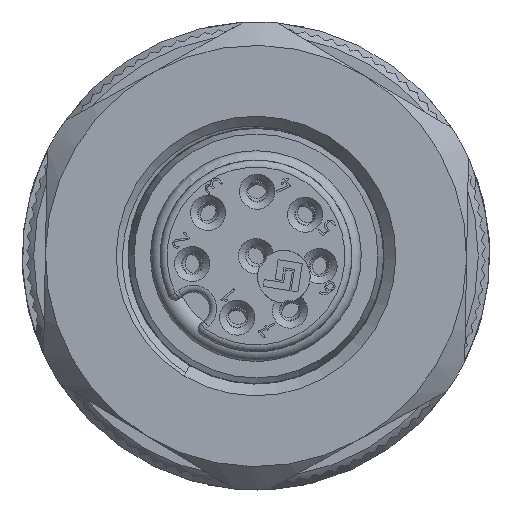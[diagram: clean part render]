
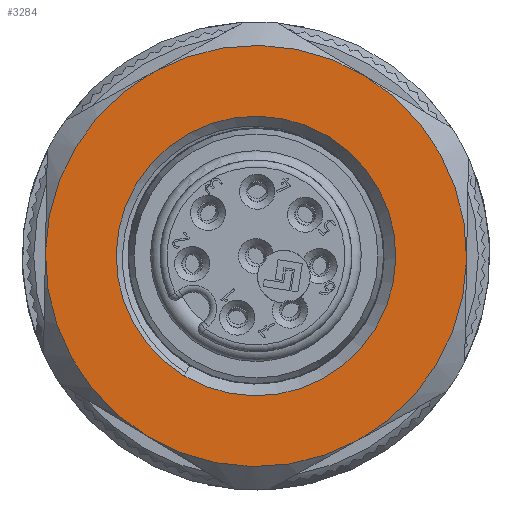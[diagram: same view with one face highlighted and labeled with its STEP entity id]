
A CAD part, left-side view. The second image highlights one B-rep face of the part: STEP entity #3284.
In plain terms, the highlighted planar face has unit normal (-1, 0, 0).
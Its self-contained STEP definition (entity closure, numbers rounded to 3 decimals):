
#2909=PLANE('',#11475);
#3284=ADVANCED_FACE('',(#4072,#4073),#2909,.T.);
#4072=FACE_BOUND('',#4258,.T.);
#4073=FACE_BOUND('',#4259,.T.);
#4258=EDGE_LOOP('',(#5047));
#4259=EDGE_LOOP('',(#5048,#5049,#5050,#5051,#5052,#5053));
#5047=ORIENTED_EDGE('',*,*,#9437,.T.);
#5048=ORIENTED_EDGE('',*,*,#9435,.T.);
#5049=ORIENTED_EDGE('',*,*,#9425,.T.);
#5050=ORIENTED_EDGE('',*,*,#9415,.T.);
#5051=ORIENTED_EDGE('',*,*,#9405,.T.);
#5052=ORIENTED_EDGE('',*,*,#9392,.T.);
#5053=ORIENTED_EDGE('',*,*,#9394,.T.);
#8281=VERTEX_POINT('',#15168);
#8282=VERTEX_POINT('',#15170);
#8283=VERTEX_POINT('',#15177);
#8289=VERTEX_POINT('',#15212);
#8295=VERTEX_POINT('',#15243);
#8301=VERTEX_POINT('',#15274);
#8306=VERTEX_POINT('',#15310);
#9392=EDGE_CURVE('',#8282,#8281,#11031,.T.);
#9394=EDGE_CURVE('',#8281,#8283,#11032,.T.);
#9405=EDGE_CURVE('',#8289,#8282,#11036,.T.);
#9415=EDGE_CURVE('',#8295,#8289,#11040,.T.);
#9425=EDGE_CURVE('',#8301,#8295,#11044,.T.);
#9435=EDGE_CURVE('',#8283,#8301,#11048,.T.);
#9437=EDGE_CURVE('',#8306,#8306,#11049,.T.);
#11031=CIRCLE('',#11442,9.);
#11032=CIRCLE('',#11444,9.);
#11036=CIRCLE('',#11451,9.);
#11040=CIRCLE('',#11458,9.);
#11044=CIRCLE('',#11465,9.);
#11048=CIRCLE('',#11472,9.);
#11049=CIRCLE('',#11474,5.975);
#11442=AXIS2_PLACEMENT_3D('',#15169,#12426,#12427);
#11444=AXIS2_PLACEMENT_3D('',#15176,#12430,#12431);
#11451=AXIS2_PLACEMENT_3D('',#15211,#12446,#12447);
#11458=AXIS2_PLACEMENT_3D('',#15242,#12462,#12463);
#11465=AXIS2_PLACEMENT_3D('',#15273,#12478,#12479);
#11472=AXIS2_PLACEMENT_3D('',#15303,#12494,#12495);
#11474=AXIS2_PLACEMENT_3D('',#15309,#12498,#12499);
#11475=AXIS2_PLACEMENT_3D('',#15311,#12500,#12501);
#12426=DIRECTION('',(-1.,0.,0.));
#12427=DIRECTION('',(0.,-0.516,0.857));
#12430=DIRECTION('',(-1.,0.,0.));
#12431=DIRECTION('',(0.,-0.516,0.857));
#12446=DIRECTION('',(-1.,0.,0.));
#12447=DIRECTION('',(0.,-0.516,0.857));
#12462=DIRECTION('',(-1.,0.,0.));
#12463=DIRECTION('',(0.,-0.516,0.857));
#12478=DIRECTION('',(-1.,0.,0.));
#12479=DIRECTION('',(0.,-0.516,0.857));
#12494=DIRECTION('',(-1.,0.,0.));
#12495=DIRECTION('',(0.,-0.516,0.857));
#12498=DIRECTION('',(1.,0.,0.));
#12499=DIRECTION('',(0.,-0.516,0.857));
#12500=DIRECTION('',(-1.,0.,0.));
#12501=DIRECTION('',(0.,-0.516,0.857));
#15168=CARTESIAN_POINT('',(-37.249,8.998,8.154));
#15169=CARTESIAN_POINT('',(-37.249,0.,7.988));
#15170=CARTESIAN_POINT('',(-37.249,4.355,15.864));
#15176=CARTESIAN_POINT('',(-37.249,0.,7.988));
#15177=CARTESIAN_POINT('',(-37.249,4.643,0.278));
#15211=CARTESIAN_POINT('',(-37.249,0.,7.988));
#15212=CARTESIAN_POINT('',(-37.249,-4.643,15.697));
#15242=CARTESIAN_POINT('',(-37.249,0.,7.988));
#15243=CARTESIAN_POINT('',(-37.249,-8.998,7.821));
#15273=CARTESIAN_POINT('',(-37.249,0.,7.988));
#15274=CARTESIAN_POINT('',(-37.249,-4.355,0.112));
#15303=CARTESIAN_POINT('',(-37.249,0.,7.988));
#15309=CARTESIAN_POINT('',(-37.249,0.,7.988));
#15310=CARTESIAN_POINT('',(-37.249,-3.083,13.106));
#15311=CARTESIAN_POINT('',(-37.249,0.,7.988));
